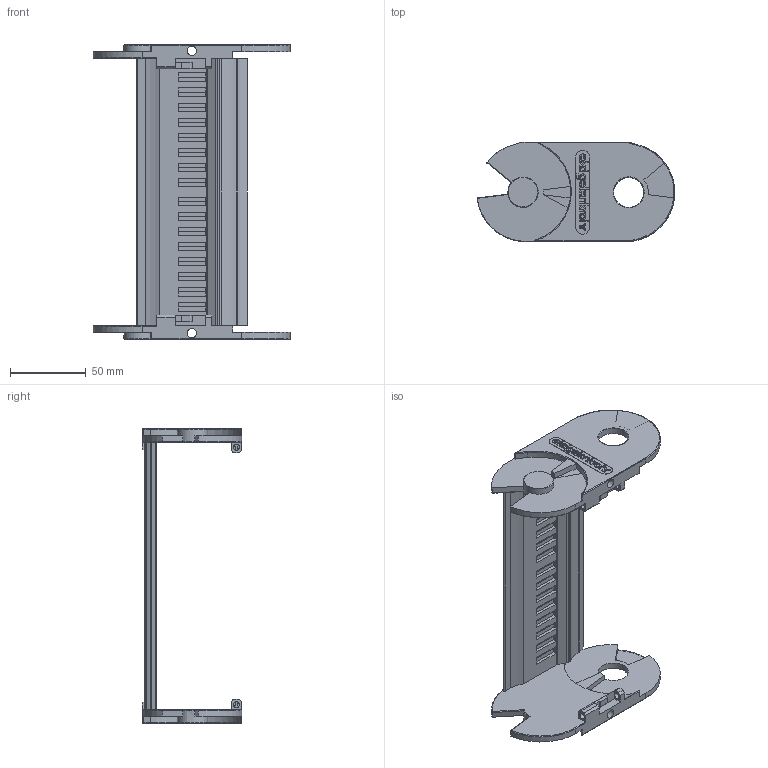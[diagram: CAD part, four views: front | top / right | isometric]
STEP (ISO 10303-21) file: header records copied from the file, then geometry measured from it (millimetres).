
FILE_DESCRIPTION((''),'2;1');
FILE_NAME('C:\Uebbing\PARAMETERKETTEN\KOLIBRI\Kol_65_195_5\Kol_65_195_5 Lasche.stp','2011-11-02T15:20:54',('Uebbing'),(''),'Autodesk Inventor 10','Autodesk Inventor 10','');
FILE_SCHEMA(('AUTOMOTIVE_DESIGN { 1 0 10303 214 1 1 1 1 }'));
Length unit declared in the file: millimetre
Products named in the file (1): Kol_65_195_5 Lasche
Bounding box: 130.76 x 65.7 x 195 mm (x, y, z)
Volume: 104372.5 mm3; surface area: 68682.9 mm2
Topology: 1 solids, 1 shells, 482 faces, 1342 edges, 867 vertices
Faces by surface type: plane 218, bspline 176, cylinder 76, torus 9, sphere 2, cone 1
Full cylindrical faces by diameter (mm): 2.514 x1, 4 x2, 4.414 x1, 6 x1, 20 x2
Entity records: 16092 total; most frequent: CARTESIAN_POINT 4157, ORIENTED_EDGE 2626, DIRECTION 2171, EDGE_CURVE 1313, VECTOR 1021, LINE 1021, VERTEX_POINT 858, AXIS2_PLACEMENT_3D 575
